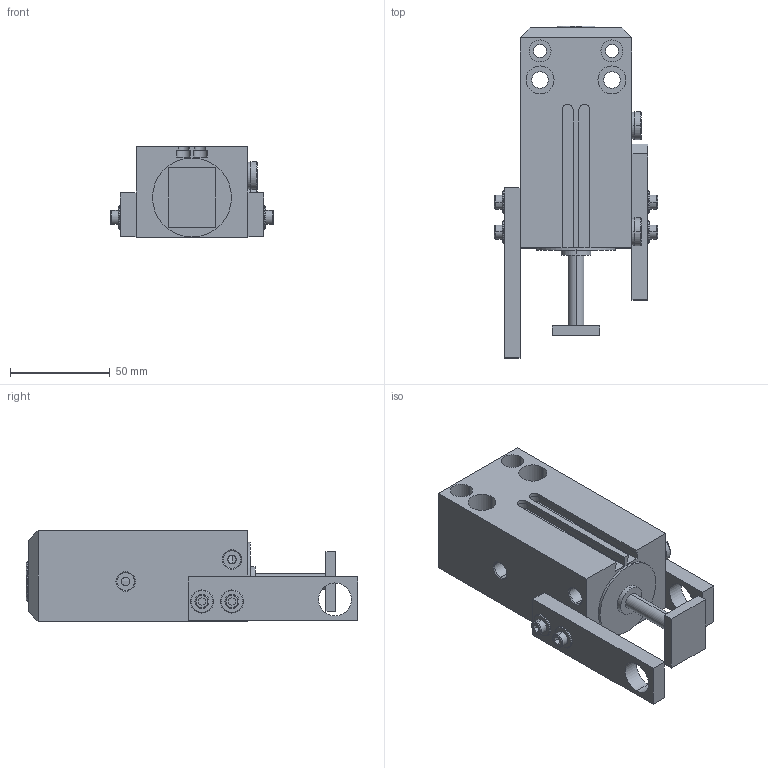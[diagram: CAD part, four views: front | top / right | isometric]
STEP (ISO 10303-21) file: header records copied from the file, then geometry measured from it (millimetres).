
FILE_DESCRIPTION (( 'STEP AP203' ), '1' );
FILE_NAME ('ASUTEC ASP-490-31-I-TS2.STEP', '2017-05-29T07:29:25', ( '' ), ( '' ), 'SwSTEP 2.0', 'SolidWorks 2015', '' );
FILE_SCHEMA (( 'CONFIG_CONTROL_DESIGN' ));
Length unit declared in the file: millimetre
Products named in the file (1): ASUTEC ASP-490-31-I-TS2
Bounding box: 81.6 x 166 x 45.5 mm (x, y, z)
Volume: 272845.7 mm3; surface area: 70678.9 mm2
Topology: 4 solids, 4 shells, 868 faces, 2246 edges, 1481 vertices
Faces by surface type: plane 461, bspline 233, cylinder 138, cone 24, torus 12
Entity records: 37789 total; most frequent: CARTESIAN_POINT 17779, ORIENTED_EDGE 4488, DIRECTION 3352, EDGE_CURVE 2244, VERTEX_POINT 1481, LINE 1448, VECTOR 1448, EDGE_LOOP 989
